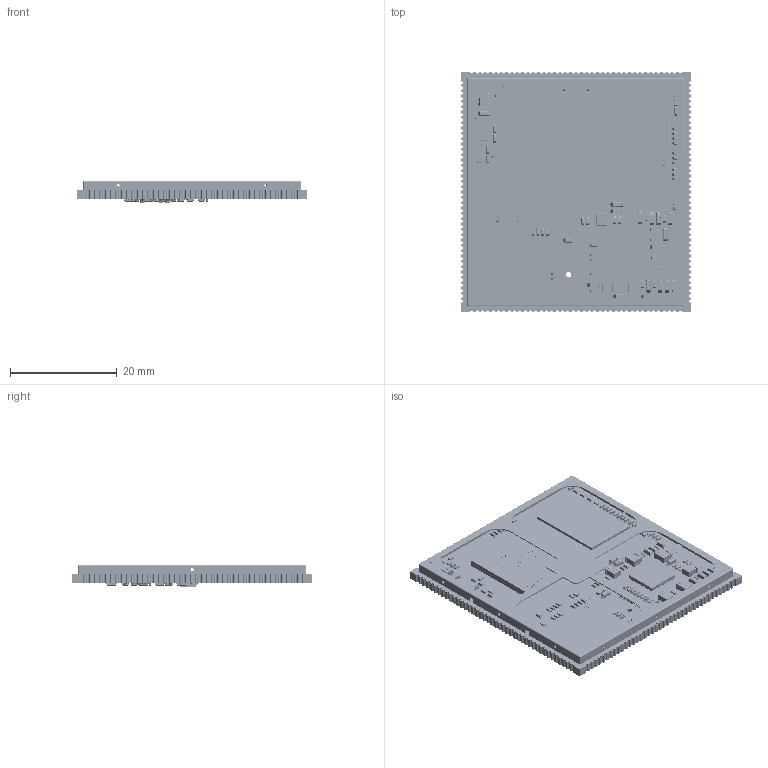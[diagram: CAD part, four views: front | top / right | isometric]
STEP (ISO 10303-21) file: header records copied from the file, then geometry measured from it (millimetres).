
FILE_DESCRIPTION (( 'STEP AP214' ), '1' );
FILE_NAME ('MYC-YT507H-0601.STEP', '2022-06-01T07:15:30', ( '' ), ( '' ), 'SwSTEP 2.0', 'SolidWorks 2022', '' );
FILE_SCHEMA (( 'AUTOMOTIVE_DESIGN' ));
Length unit declared in the file: millimetre
Products named in the file (246): Part_147_46.stp.STEP; Part_147_101.stp.STEP; Part_147_173.stp.STEP; Part_147_98.stp.STEP; Part_147_163.stp.STEP; Part_147_165.stp.STEP; Part_147_130.stp.STEP; Part_147_23.stp.STEP; Part_147_58.stp.STEP; Part_147_124.stp.STEP; Part_147_103.stp.STEP; Part_147_190.stp.STEP; Part_147_82.stp.STEP; Part_147_177.stp.STEP; Part_147_43.stp.STEP; Part_147_131.stp.STEP; Part_147_3.stp.STEP; Part_147_95.stp.STEP; Part_147_132.stp.STEP; Part_147_107.stp.STEP; Part_147_11.stp.STEP; Part_147_86.stp.STEP; Part_147_155.stp.STEP; Part_147_38.stp.STEP; Part_147_110.stp.STEP; Part_147_152.stp.STEP; Part_147_9.stp.STEP; COMPONENTS.stp.STEP; Part_147_145.stp.STEP; Part_147_109.stp.STEP; Part_147_195.stp.STEP; OSCCC320X250X80L90X100.stp.STEP; Part_147_77.stp.STEP; Part_147_57.stp.STEP; Part_147_12.stp.STEP; Part_147_115.stp.STEP; MYC-T507.stp.STEP; Part_147_136.stp.STEP; Part_147_44.stp.STEP; Part_147_192.stp.STEP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
Assembly tree (492 placements, depth 9):
  MYC-YT507H-0601
    MYC-YT507H-0601.STEP
      MYC-YT507H-0601.stp.STEP
        COMPONENTS.stp.STEP
          L2X2_5.stp.STEP  x6
            IND2520_H12.stp.STEP
          TEST1_0-DIP.stp.STEP
            TEST HOLE-0_5.stp.STEP
          BGA153_C010S.stp.STEP
            BGA153-1.stp.STEP
          PINBZ41_5X43_5.stp.STEP
            MYC-T507.stp.STEP
          QFN52-0_4.stp.STEP
            User Library-QFN40P600X600X75_HS-53N.stp.STEP
              6714758048.stp.STEP
                Body.stp.STEP
                  Open_CASCADE_STEP_translator_6.8_18.2.1.stp.STEP
                Pin_Shape.stp.STEP  x52
                  Open_CASCADE_STEP_translator_6.8_18.4.1.stp.STEP
                Open_CASCADE_STEP_translator_6.8_18.1.stp.STEP
                Thermal_Shape.stp.STEP
          R0402.stp.STEP  x51
            R0402-0.stp.STEP
          C0402.stp.STEP  x98
            C0402-1.stp.STEP
          BGA421_0P65.stp.STEP
            BGA421.stp.STEP
          3215.stp.STEP
            Solid.stp.STEP
          C0603.stp.STEP  x21
            C0603-2.stp.STEP
          3225.stp.STEP
            OSCCC320X250X80L90X100.stp.STEP
          FBGA200.stp.STEP
            User Library-IS46LQ32128A-062BLA.stp.STEP
              Part_147.stp.STEP
              Part_147_2.stp.STEP
              Part_147_3.stp.STEP
              Part_147_4.stp.STEP
              Part_147_5.stp.STEP
              Part_147_6.stp.STEP
              Part_147_7.stp.STEP
              Part_147_8.stp.STEP
              Part_147_9.stp.STEP
              Part_147_10.stp.STEP
              Part_147_11.stp.STEP
              Part_147_12.stp.STEP
              Part_147_13.stp.STEP
              Part_147_14.stp.STEP
              Part_147_15.stp.STEP
              Part_147_16.stp.STEP
              Part_147_17.stp.STEP
              Part_147_18.stp.STEP
              Part_147_19.stp.STEP
              Part_147_20.stp.STEP
              Part_147_21.stp.STEP
              Part_147_22.stp.STEP
              Part_147_23.stp.STEP
              Part_147_24.stp.STEP
              Part_147_25.stp.STEP
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Bounding box: 43 x 45 x 4.18 mm (x, y, z)
Volume: 3798 mm3; surface area: 8210.7 mm2
Topology: 896 solids, 948 shells, 36676 faces, 97308 edges, 64379 vertices
Faces by surface type: bspline 15317, plane 15152, cylinder 5661, torus 490, sphere 56
Entity records: 165109 total; most frequent: CARTESIAN_POINT 54531, ORIENTED_EDGE 20242, DIRECTION 16188, EDGE_CURVE 10134, VERTEX_POINT 6801, VECTOR 5904, LINE 5904, AXIS2_PLACEMENT_3D 5142
